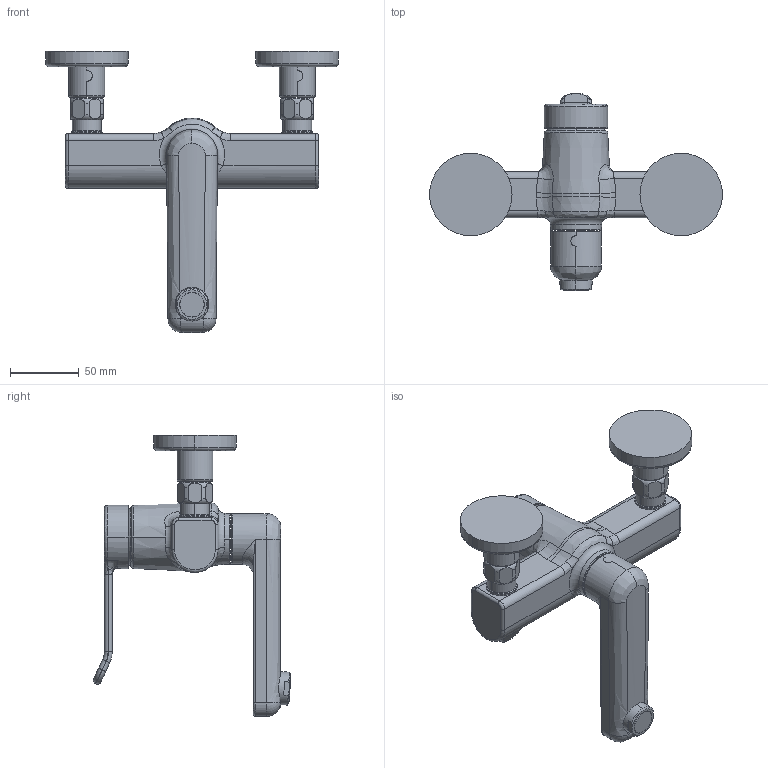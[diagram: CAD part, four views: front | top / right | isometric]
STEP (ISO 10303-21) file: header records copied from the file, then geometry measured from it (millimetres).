
FILE_DESCRIPTION((''),'2;1');
FILE_NAME('11512092','2020-10-20T09:52:39',('SN986'),(''),'CREO PARAMETRIC BY PTC INC, 2018500','CREO PARAMETRIC BY PTC INC, 2018500','');
FILE_SCHEMA(('CONFIG_CONTROL_DESIGN'));
Length unit declared in the file: millimetre
Products named in the file (1): 11512092
Bounding box: 213 x 143.45 x 204.3 mm (x, y, z)
Volume: 561732.3 mm3; surface area: 80016 mm2
Topology: 4 solids, 4 shells, 230 faces, 535 edges, 324 vertices
Faces by surface type: cylinder 70, torus 62, plane 52, bspline 30, cone 12, sphere 4
Entity records: 10272 total; most frequent: CARTESIAN_POINT 5147, DIRECTION 1081, ORIENTED_EDGE 1070, EDGE_CURVE 535, AXIS2_PLACEMENT_3D 475, VERTEX_POINT 324, CIRCLE 275, EDGE_LOOP 241
